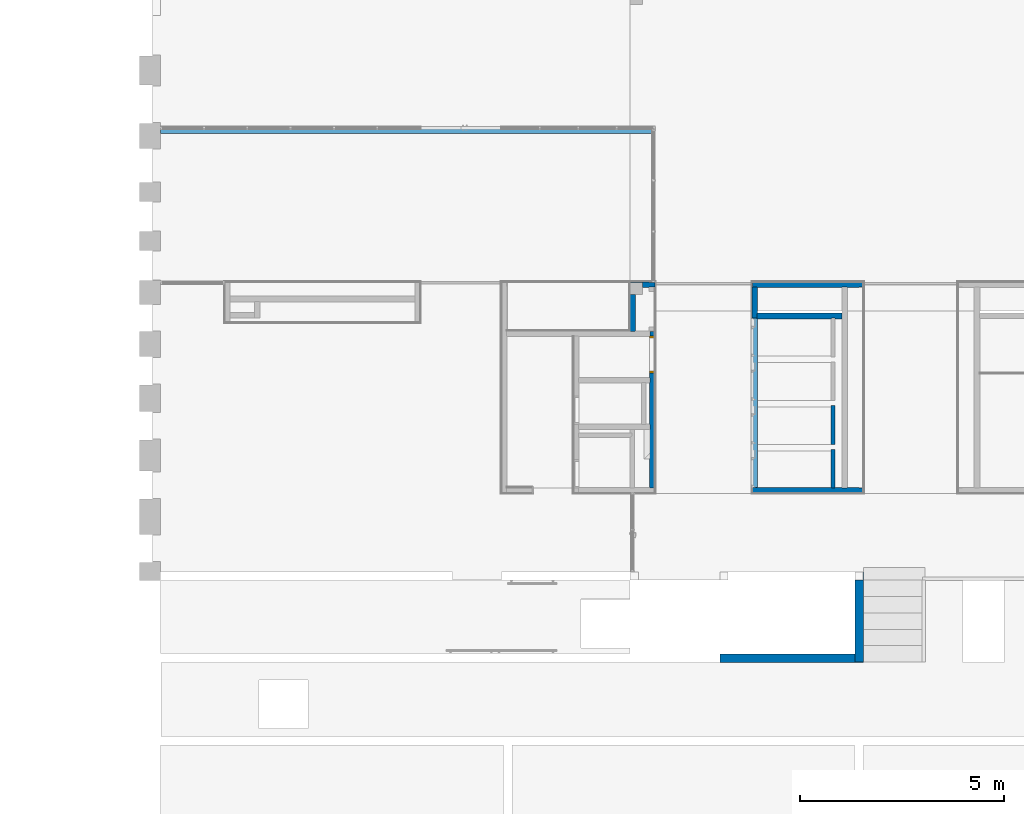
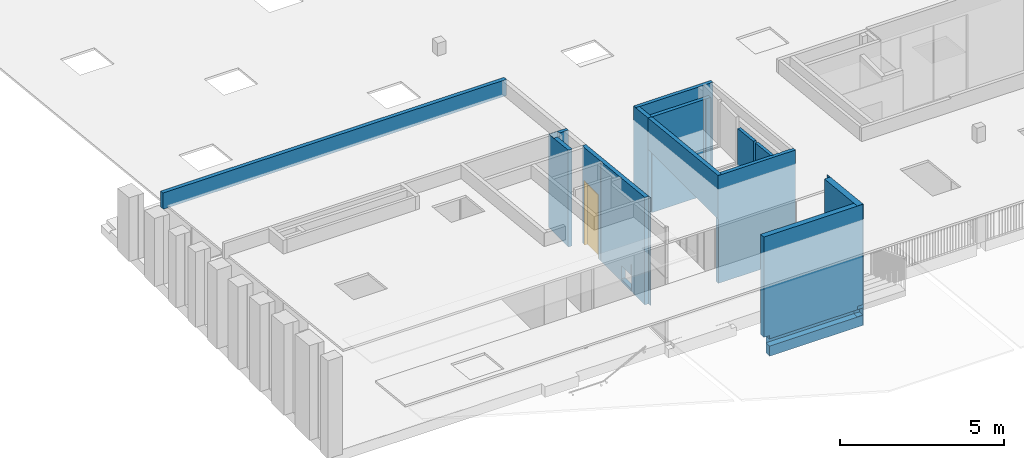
# One storey, part 27 of 43: 13 walls, 1 door, 2 openings.
"""IFC2X3 building model written with IfcOpenShell, lengths in millimetres."""

from ifc_helpers import new_model, entity, si_unit, converted_unit, derived_unit, money_unit, direction, frame, origin_with_axes, place, context, subcontext, project, spatial, faceted_brep, material, material_list, type_object, element, fill, save


model = new_model("IFC2X3")

# Units and contexts
model_context = context("Model", 3, precision=0.01, world=origin_with_axes(), true_north=direction((0.0, 1.0)))
body_context = subcontext(model_context, "Body", "Model", "MODEL_VIEW")
ifc_project = project(units=[si_unit("LENGTHUNIT", "METRE", prefix="MILLI"), si_unit("AREAUNIT", "SQUARE_METRE"), si_unit("VOLUMEUNIT", "CUBIC_METRE"), converted_unit("PLANEANGLEUNIT", "DEGREE", entity("IfcPlaneAngleMeasure", 0.0174532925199), si_unit("PLANEANGLEUNIT", "RADIAN"), dimensions=[0, 0, 0, 0, 0, 0, 0]), si_unit("SOLIDANGLEUNIT", "STERADIAN"), money_unit("EUR"), converted_unit("TIMEUNIT", "Year", entity("IfcTimeMeasure", 31556926.0), si_unit("TIMEUNIT", "SECOND"), dimensions=[0, 0, 1, 0, 0, 0, 0]), si_unit("MASSUNIT", "GRAM", prefix="KILO"), si_unit("THERMODYNAMICTEMPERATUREUNIT", "DEGREE_CELSIUS"), si_unit("LUMINOUSINTENSITYUNIT", "LUMEN"), si_unit("ENERGYUNIT", "JOULE", prefix="MEGA"), derived_unit("THERMALCONDUCTANCEUNIT", [(si_unit("POWERUNIT", "WATT"), 1), (si_unit("LENGTHUNIT", "METRE"), -1), (si_unit("THERMODYNAMICTEMPERATUREUNIT", "KELVIN"), -1)]), derived_unit("SPECIFICHEATCAPACITYUNIT", [(si_unit("ENERGYUNIT", "JOULE"), 1), (si_unit("MASSUNIT", "GRAM", prefix="KILO"), -1), (si_unit("THERMODYNAMICTEMPERATUREUNIT", "KELVIN"), -1)]), derived_unit("MASSDENSITYUNIT", [(si_unit("MASSUNIT", "GRAM", prefix="KILO"), 1), (si_unit("VOLUMEUNIT", "CUBIC_METRE"), -1)])], contexts=[model_context])

# Site, building, storey
site_placement = place(None, origin_with_axes())
site = spatial("IfcSite", under=ifc_project, at=site_placement, Name="L.Koidula tn 11b", CompositionType="ELEMENT")
building_placement = place(site_placement, origin_with_axes())
building = spatial("IfcBuilding", under=site, at=building_placement, Name="Rakvere Riigigümnaasium", CompositionType="ELEMENT")
storey_placement = place(building_placement, frame((0.0, 0.0, 6665.0), z_axis=(0.0, 0.0, 1.0), x_axis=(1.0, 0.0, 0.0)))
storey = spatial("IfcBuildingStorey", under=building, at=storey_placement, Name="3.korrus +6,66", CompositionType="ELEMENT", Elevation=6665.0)

# Walls
ifc_material_1 = material(Name="Kipsplaat")
ifc_material_2 = material(Name="mineraalvill+karkass")
ifc_material_list_1 = material_list([ifc_material_1, ifc_material_1, ifc_material_2, ifc_material_1, ifc_material_1])
wall_type_1 = type_object("IfcWallType", Name="SS-07 155", PredefinedType="NOTDEFINED")
wall_1_placement = place(storey_placement, frame((47609.9999955, 28200.4554945, 2490.0), z_axis=(0.0, 0.0, 1.0), x_axis=(-1.0, 0.0, 0.0)))
element("IfcWall", 1, at=wall_1_placement, inside=storey, type_object=wall_type_1, material=ifc_material_list_1, Name="Sisesein", context=body_context, shape_type="Brep", body=[
    faceted_brep([(12109.9999434, 140.0, 0.0), (12109.9999434, 140.0, 605.244931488), (0.0, 140.0, 605.061107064), (0.0, 140.0, 0.0), (12109.9999434, 155.0, 0.0), (12109.9999434, 155.000003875, 606.821495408), (0.0, 155.0, 606.637670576), (0.0, 155.0, 0.0)], [[[0, 1, 2, 3]], [[4, 5, 1, 0]], [[5, 6, 2, 1]], [[3, 2, 6, 7]], [[3, 7, 4, 0]], [[7, 6, 5, 4]]]),
    faceted_brep([(12109.9999434, 125.0, 0.0), (12109.9999434, 125.00000134, 603.668368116), (0.0, 125.0, 603.484543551), (0.0, 125.0, 0.0), (12109.9999434, 140.0, 0.0), (12109.9999434, 140.0, 605.244931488), (0.0, 140.0, 605.061107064), (0.0, 140.0, 0.0)], [[[0, 1, 2, 3]], [[4, 5, 1, 0]], [[5, 6, 2, 1]], [[3, 2, 6, 7]], [[3, 7, 4, 0]], [[7, 6, 5, 4]]]),
    faceted_brep([(12109.9999434, 30.0, 0.0), (12109.9999434, 30.0000000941, 593.683465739), (0.0, 30.0, 593.499641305), (0.0, 30.0, 0.0), (12109.9999434, 125.0, 0.0), (12109.9999434, 125.00000134, 603.668368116), (0.0, 125.0, 603.484543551), (0.0, 125.0, 0.0)], [[[0, 1, 2, 3]], [[4, 5, 1, 0]], [[5, 6, 2, 1]], [[3, 2, 6, 7]], [[3, 7, 4, 0]], [[7, 6, 5, 4]]]),
    faceted_brep([(12109.9999434, 15.0, 0.0), (12109.9999434, 15.0, 592.106902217), (0.0, 15.0, 591.923077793), (0.0, 15.0, 0.0), (12109.9999434, 30.0, 0.0), (12109.9999434, 30.0000000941, 593.683465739), (0.0, 30.0, 593.499641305), (0.0, 30.0, 0.0)], [[[0, 1, 2, 3]], [[4, 5, 1, 0]], [[5, 6, 2, 1]], [[3, 2, 6, 7]], [[3, 7, 4, 0]], [[7, 6, 5, 4]]]),
    faceted_brep([(12109.9999434, 0.0, 0.0), (12109.9999434, 0.0, 590.530338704), (0.0, 0.0, 590.34651428), (0.0, 0.0, 0.0), (12109.9999434, 15.0, 0.0), (12109.9999434, 15.0, 592.106902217), (0.0, 15.0, 591.923077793), (0.0, 15.0, 0.0)], [[[0, 1, 2, 3]], [[4, 5, 1, 0]], [[5, 6, 2, 1]], [[3, 2, 6, 7]], [[3, 7, 4, 0]], [[7, 6, 5, 4]]]),
])
ifc_material_3 = material(Name="Betoon element / plaat")
ifc_material_4 = material(Name="siseviimistlus-seinad")
ifc_material_list_2 = material_list([ifc_material_3, ifc_material_4])
wall_type_2 = type_object("IfcWallType", Name="SS-01-1 210", PredefinedType="NOTDEFINED")
wall_2_placement = place(storey_placement, frame((49199.9999937, 15300.4785302, 0.0), z_axis=(0.0, 0.0, 1.0), x_axis=(1.0, 0.0, 0.0)))
element("IfcWall", 2, at=wall_2_placement, inside=storey, type_object=wall_type_2, material=ifc_material_list_2, Name="Sisesein", context=body_context, shape_type="Brep", body=[
    faceted_brep([(-2.84217094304e-10, -1.1920940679e-05, 4491.46753475), (3300.0, -1.0049774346e-06, 4491.41744107), (3300.0, 0.0, 0.0), (199.999999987, 0.0, 0.0), (199.999999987, -1.1920940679e-05, 775.0), (-1.29816157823e-08, -1.1920940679e-05, 775.0), (3300.0, -200.000000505, 4512.43828785), (-2.13162820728e-10, -200.000005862, 4512.48838095), (3300.0, -200.000000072, 645.0), (3300.0, -0.746753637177, 645.0), (3300.0, -0.746753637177, 380.0), (3300.0, -200.000000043, 380.0), (3300.0, -200.0, 0.0), (199.999999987, -200.0, 0.0), (199.999999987, -0.746753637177, 380.0), (199.999999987, -0.746753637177, 645.0), (199.999999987, -200.0, 645.0), (199.999999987, -200.0, 775.0), (199.999999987, -200.0, 380.0), (-1.29816157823e-08, -200.0, 775.0)], [[[0, 1, 2, 3, 4, 5]], [[6, 1, 0, 7]], [[1, 6, 8, 9, 10, 11, 12, 2]], [[2, 12, 13, 3]], [[14, 15, 16, 17, 4, 3, 13, 18]], [[17, 19, 5, 4]], [[7, 0, 5, 19]], [[6, 7, 19, 17, 16, 8]], [[15, 9, 8, 16]], [[14, 10, 9, 15]], [[18, 11, 10, 14]], [[12, 11, 18, 13]]]),
    faceted_brep([(-1.91846538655e-10, -200.000005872, 4512.48838095), (3500.0, -200.000000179, 4512.4352519), (3500.0, -200.0, 775.0), (-1.17594822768e-08, -200.000000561, 775.0), (3500.0, -210.0, 4513.48629423), (0.0, -210.0, 4513.53942267), (3500.0, -210.0, 775.0), (0.0, -210.0, 775.0)], [[[0, 1, 2, 3]], [[4, 1, 0, 5]], [[1, 4, 6, 2]], [[7, 3, 2, 6]], [[5, 0, 3, 7]], [[4, 5, 7, 6]]]),
    faceted_brep([(199.999999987, -200.0, 380.0), (3500.0, -200.0, 380.0), (3500.0, -200.0, 0.0), (199.999999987, -200.0, 0.0), (3500.0, -210.0, 380.0), (199.999999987, -209.998331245, 380.0), (3500.0, -210.0, 0.0), (199.999999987, -209.998426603, 0.0)], [[[0, 1, 2, 3]], [[4, 1, 0, 5]], [[1, 4, 6, 2]], [[6, 7, 3, 2]], [[5, 0, 3, 7]], [[4, 5, 7, 6]]]),
])
wall_3_placement = place(storey_placement, frame((52499.9999937, 15300.4785302, 0.0), z_axis=(0.0, 0.0, 1.0), x_axis=(0.0, 1.0, 0.0)))
element("IfcWall", 3, at=wall_3_placement, inside=storey, type_object=wall_type_2, material=ifc_material_list_2, Name="Sisesein", context=body_context, shape_type="Brep", body=[
    faceted_brep([(1809.97697926, 0.0, 4301.18119669), (1809.97697926, -200.0, 4301.17816078), (1809.97697926, -200.0, 0.0), (1809.97697926, 0.0, 0.0), (-200.0, -200.0, 4512.43525188), (-200.0, 0.0, 4512.43828779), (-200.0, -200.0, 645.0), (-0.746753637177, -200.0, 645.0), (-0.746753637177, -200.0, 380.0), (-200.0, -200.0, 380.0), (-200.0, -200.0, 0.0), (-200.0, 0.0, 0.0), (-200.0, 0.0, 380.0), (-0.746753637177, 0.0, 380.0), (-0.746753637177, 0.0, 645.0), (-200.0, 0.0, 645.0)], [[[0, 1, 2, 3]], [[4, 1, 0, 5]], [[1, 4, 6, 7, 8, 9, 10, 2]], [[11, 3, 2, 10]], [[5, 0, 3, 11, 12, 13, 14, 15]], [[4, 5, 15, 6]], [[14, 7, 6, 15]], [[13, 8, 7, 14]], [[12, 9, 8, 13]], [[10, 9, 12, 11]]]),
    faceted_brep([(2009.97697926, -200.0, 4280.15731395), (2009.97697926, -210.0, 4280.15716215), (2009.97697926, -210.0, 0.0), (2009.97697926, -200.0, 0.0), (-210.0, -210.0, 4513.48614243), (-210.0, -200.0, 4513.48629423), (-210.0, -210.0, 775.0), (-200.0, -210.0, 775.0), (-200.0, -210.0, 380.0), (-210.0, -210.0, 380.0), (-210.0, -210.0, 0.0), (-210.0, -200.0, 0.0), (-210.0, -200.0, 380.0), (-200.0, -200.0, 380.0), (-200.0, -200.0, 775.0), (-210.0, -200.0, 775.0)], [[[0, 1, 2, 3]], [[4, 1, 0, 5]], [[1, 4, 6, 7, 8, 9, 10, 2]], [[11, 3, 2, 10]], [[5, 0, 3, 11, 12, 13, 14, 15]], [[4, 5, 15, 6]], [[14, 7, 6, 15]], [[8, 7, 14, 13]], [[12, 9, 8, 13]], [[10, 9, 12, 11]]]),
])

# Wall, openings, door
ifc_material_5 = material(Name="Krohv")
ifc_material_6 = material(Name="Silikaat plokk")
ifc_material_list_3 = material_list([ifc_material_5, ifc_material_6, ifc_material_5])
wall_type_3 = type_object("IfcWallType", Name="SS-05 140", PredefinedType="NOTDEFINED")
wall_4_placement = place(storey_placement, frame((47599.9999955, 19240.4397072, 0.0), z_axis=(0.0, 0.0, 1.0), x_axis=(0.0, 1.0, 0.0)))
wall_4 = element("IfcWall", 4, at=wall_4_placement, inside=storey, type_object=wall_type_3, material=ifc_material_list_3, Name="Sisesein", context=body_context, shape_type="Brep", body=[
    faceted_brep([(1560.0, 130.000001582, 595.0), (1560.0, 130.000010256, 3858.12163158), (1560.0, 119.99998154, 3858.12147979), (1560.0, 119.999997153, 595.0), (130.0, 130.0, 0.0), (130.0, 130.000010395, 4008.42068644), (960.0, 130.0, 595.0), (960.0, 130.0, 1000.0), (840.0, 130.000010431, 1000.0), (840.0, 130.0, 0.0), (130.0, 119.999981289, 4008.42053465), (130.0, 120.0, 0.0), (840.0, 120.0, 0.0), (840.0, 119.999981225, 1000.0), (960.0, 119.999981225, 1000.0), (960.0, 119.999988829, 595.0)], [[[0, 1, 2, 3]], [[4, 5, 1, 0, 6, 7, 8, 9]], [[5, 10, 2, 1]], [[3, 2, 10, 11, 12, 13, 14, 15]], [[3, 15, 6, 0]], [[11, 10, 5, 4]], [[15, 14, 7, 6]], [[13, 8, 7, 14]], [[12, 9, 8, 13]], [[12, 11, 4, 9]]]),
    faceted_brep([(2700.01583255, 130.0, 0.0), (2700.01583255, 130.00001039, 3738.30114056), (2700.01583255, 119.999981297, 3738.30098876), (2700.01583255, 120.0, 0.0), (1680.0, 130.0, 0.0), (1680.0, 130.000010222, 3845.50912348), (1680.0, 119.9999816, 3845.50897168), (1680.0, 120.0, 0.0)], [[[0, 1, 2, 3]], [[4, 5, 1, 0]], [[5, 6, 2, 1]], [[3, 2, 6, 7]], [[3, 7, 4, 0]], [[7, 6, 5, 4]]]),
    faceted_brep([(3840.01583998, 130.0, 0.0), (3840.01583998, 130.000010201, 3618.48231283), (3840.01583998, 119.999982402, 3618.48216103), (3840.01583998, 120.0, 2400.0), (3840.01583998, 120.0, 0.0), (2820.01583255, 130.0, 0.0), (2820.01583255, 130.000010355, 3725.68863246), (3830.01583521, 130.000004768, 0.0), (3830.01583521, 130.000004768, 2400.0), (2940.01583998, 130.000004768, 2400.0), (2940.01583998, 130.000004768, 0.0), (2820.01583255, 119.999981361, 3725.68848066), (2820.01583255, 120.0, 0.0), (2940.01583998, 120.000052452, 0.0), (2940.01583998, 119.999988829, 2400.0)], [[[0, 1, 2, 3, 4]], [[5, 6, 1, 0, 7, 8, 9, 10]], [[6, 11, 2, 1]], [[3, 2, 11, 12, 13, 14]], [[3, 8, 7, 4]], [[7, 0, 4]], [[12, 11, 6, 5]], [[9, 8, 3, 14]], [[10, 9, 14, 13]], [[12, 5, 10, 13]]]),
    faceted_brep([(1560.0, 130.0, 0.0), (1560.0, 130.000000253, 95.0), (1560.0, 119.999999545, 95.0), (1560.0, 120.0, 0.0), (960.0, 130.0, 0.0), (960.0, 130.0, 95.0), (960.0, 119.999998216, 95.0), (960.0, 120.0, 0.0)], [[[0, 1, 2, 3]], [[4, 5, 1, 0]], [[5, 6, 2, 1]], [[3, 2, 6, 7]], [[3, 7, 4, 0]], [[7, 6, 5, 4]]]),
    faceted_brep([(3960.01583998, 120.0, 0.0), (3960.01583998, 119.999990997, 3605.86965293), (3960.01583998, -1.32900126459e-05, 3605.86783138), (3960.01583998, 0.0, 0.0), (120.0, 120.0, 0.0), (120.0, 119.999981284, 4009.47157699), (3840.01583998, 120.0, 0.0), (3840.01583998, 120.0, 2400.0), (2940.01583998, 119.999981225, 2400.0), (2940.01583998, 120.000052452, 0.0), (1560.0, 119.999981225, 95.0), (1560.0, 119.999981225, 595.0), (960.0, 119.999981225, 595.0), (960.0, 119.999981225, 95.0), (120.0, -2.76289569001e-05, 4009.46975544), (120.0, 0.0, 0.0), (2940.01583998, -4.76837627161e-05, 0.0), (2940.01583998, -3.4504594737e-06, 2400.0), (3840.01583998, -3.4504594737e-06, 2400.0), (3840.01583998, -4.76837627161e-05, 0.0), (960.0, 0.0, 595.0), (1560.0, 0.0, 595.0), (1560.0, 0.0, 95.0), (960.0, 0.0, 95.0)], [[[0, 1, 2, 3]], [[4, 5, 1, 0, 6, 7, 8, 9], [10, 11, 12, 13]], [[5, 14, 2, 1]], [[3, 2, 14, 15, 16, 17, 18, 19], [20, 21, 22, 23]], [[0, 3, 19, 6]], [[15, 14, 5, 4]], [[7, 6, 19, 18]], [[8, 7, 18, 17]], [[9, 8, 17, 16]], [[15, 4, 9, 16]], [[21, 11, 10, 22]], [[20, 12, 11, 21]], [[23, 13, 12, 20]], [[22, 10, 13, 23]]]),
    faceted_brep([(3970.01583998, 0.0, 0.0), (3970.01583998, -2.70031819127e-05, 3604.81678904), (3970.01583998, -10.0, 3604.81663725), (3970.01583998, -10.0, 0.0), (0.0, 0.0, 0.0), (0.0, -1.84548554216e-06, 4022.08226354), (3840.01583998, -4.76837627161e-05, 0.0), (3840.01583998, -2.77161831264e-05, 2400.0), (2940.01583998, -2.77161831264e-05, 2400.0), (2940.01583998, -4.76837627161e-05, 0.0), (1560.0, 0.0, 95.0), (1560.0, 0.0, 595.0), (960.0, 0.0, 595.0), (960.0, 0.0, 95.0), (0.0, -10.0, 4022.08211175), (0.0, -10.0, 0.0), (2940.01583998, -10.0, 0.0), (2940.01583998, -10.0, 2400.0), (3840.01583998, -10.0, 2400.0), (3840.01583998, -10.0, 0.0), (960.0, -10.0, 595.0), (1560.0, -10.0, 595.0), (1560.0, -10.0, 95.0), (960.0, -10.0, 95.0)], [[[0, 1, 2, 3]], [[4, 5, 1, 0, 6, 7, 8, 9], [10, 11, 12, 13]], [[5, 14, 2, 1]], [[3, 2, 14, 15, 16, 17, 18, 19], [20, 21, 22, 23]], [[0, 3, 19, 6]], [[15, 14, 5, 4]], [[7, 6, 19, 18]], [[8, 7, 18, 17]], [[9, 8, 17, 16]], [[15, 4, 9, 16]], [[21, 11, 10, 22]], [[20, 12, 11, 21]], [[23, 13, 12, 20]], [[22, 10, 13, 23]]]),
])
opening_1_placement = place(wall_4_placement, frame((3390.01583998, 0.0, 0.0), z_axis=(0.0, 0.0, 1.0), x_axis=(1.0, 0.0, 0.0)))
opening_1 = element("IfcOpeningElement", 5, at=opening_1_placement, cuts=wall_4, Name="SU-064", context=body_context, shape_type="Brep", body=[
    faceted_brep([(450.0, -280.0, 2400.0), (450.0, -280.0, 0.0), (450.0, 140.0, 0.0), (450.0, 140.0, 2400.0), (-450.0, -280.0, 2400.0), (-450.0, -280.0, 0.0), (-450.0, 140.0, 0.0), (-450.0, 140.0, 2400.0)], [[[0, 1, 2, 3]], [[0, 4, 5, 1]], [[1, 5, 6, 2]], [[3, 2, 6, 7]], [[4, 0, 3, 7]], [[5, 4, 7, 6]]]),
])
opening_2_placement = place(wall_4_placement, frame((1260.0, 0.0, 95.0), z_axis=(0.0, 0.0, 1.0), x_axis=(1.0, 0.0, 0.0)))
element("IfcOpeningElement", 6, at=opening_2_placement, cuts=wall_4, Name="ava", context=body_context, shape_type="Brep", body=[
    faceted_brep([(-300.0, -280.0, 0.0), (-300.0, -280.0, 500.0), (-300.0, 140.0, 500.0), (-300.0, 140.0, 0.0), (300.0, -280.0, 0.0), (300.0, -280.0, 500.0), (300.0, 140.0, 500.0), (300.0, 140.0, 0.0)], [[[0, 1, 2, 3]], [[0, 4, 5, 1]], [[1, 5, 6, 2]], [[3, 2, 6, 7]], [[4, 0, 3, 7]], [[5, 4, 7, 6]]]),
])
door_style = type_object("IfcDoorStyle", Name="Door 23", ConstructionType="NOTDEFINED", OperationType="SINGLE_SWING_LEFT", ParameterTakesPrecedence=False, Sizeable=False)
door_placement = place(opening_1_placement, frame((450.0, 0.0, 0.0), z_axis=(0.0, 0.0, 1.0), x_axis=(-1.0, 0.0, 0.0)))
door = element("IfcDoor", 7, at=door_placement, inside=storey, type_object=door_style, Name="SU-064", ObjectType="DOOR", OverallHeight=2400.0, OverallWidth=900.0, context=body_context, shape_type="Brep", body=[
    faceted_brep([(855.0, -130.0, 2355.0), (855.0, -30.0, 2355.0), (855.0, -30.0, 0.0), (855.0, -130.0, 0.0), (900.0, 10.0, 2355.0), (867.0, 10.0, 2355.0), (867.0, -30.0, 2355.0), (900.0, -130.0, 2355.0), (867.0, -30.0, 0.0), (867.0, 10.0, 0.0), (900.0, 10.0, 0.0), (900.0, -130.0, 0.0)], [[[0, 1, 2, 3]], [[4, 5, 6, 1, 0, 7]], [[2, 1, 6, 8]], [[3, 2, 8, 9, 10, 11]], [[7, 0, 3, 11]], [[10, 9, 5, 4]], [[8, 6, 5, 9]], [[7, 11, 10, 4]]]),
    faceted_brep([(45.0, -130.0, 2355.0), (45.0, -30.0, 2355.0), (33.0, -30.0, 2355.0), (33.0, 10.0, 2355.0), (0.0, 10.0, 2355.0), (0.0, -130.0, 2355.0), (45.0, -130.0, 0.0), (45.0, -30.0, 0.0), (33.0, -30.0, 0.0), (33.0, 10.0, 0.0), (0.0, 10.0, 0.0), (0.0, -130.0, 0.0)], [[[0, 1, 2, 3, 4, 5]], [[6, 7, 1, 0]], [[8, 2, 1, 7]], [[9, 3, 2, 8]], [[4, 3, 9, 10]], [[11, 5, 4, 10]], [[6, 0, 5, 11]], [[10, 9, 8, 7, 6, 11]]]),
    faceted_brep([(900.0, 10.0, 2355.0), (867.0, 10.0, 2355.0), (867.0, 10.0, 2367.0), (33.0, 10.0, 2367.0), (33.0, 10.0, 2355.0), (0.0, 10.0, 2355.0), (0.0, 10.0, 2400.0), (900.0, 10.0, 2400.0), (855.0, -130.0, 2355.0), (855.0, -30.0, 2355.0), (867.0, -30.0, 2355.0), (900.0, -130.0, 2355.0), (867.0, -30.0, 2367.0), (33.0, -30.0, 2367.0), (33.0, -30.0, 2355.0), (45.0, -30.0, 2355.0), (45.0, -130.0, 2355.0), (0.0, -130.0, 2355.0), (0.0, -130.0, 2400.0), (900.0, -130.0, 2400.0)], [[[0, 1, 2, 3, 4, 5, 6, 7]], [[8, 9, 10, 1, 0, 11]], [[12, 2, 1, 10]], [[13, 3, 2, 12]], [[14, 4, 3, 13]], [[5, 4, 14, 15, 16, 17]], [[17, 18, 6, 5]], [[18, 19, 7, 6]], [[19, 11, 0, 7]], [[16, 15, 9, 8]], [[9, 15, 14, 13, 12, 10]], [[18, 17, 16, 8, 11, 19]]]),
    faceted_brep([(867.0, -30.0, 0.0), (33.0, -30.0, 0.0), (33.0, 10.0, 0.0), (867.0, 10.0, 0.0), (867.0, -30.0, 2367.0), (33.0, -30.0, 2367.0), (33.0, 10.0, 2367.0), (867.0, 10.0, 2367.0)], [[[0, 1, 2, 3]], [[4, 5, 1, 0]], [[1, 5, 6, 2]], [[7, 3, 2, 6]], [[4, 0, 3, 7]], [[5, 4, 7, 6]]]),
])
fill(opening_1, door)

# Walls
wall_5_placement = place(storey_placement, frame((52709.9999937, 24400.4555472, 0.0), z_axis=(0.0, 0.0, 1.0), x_axis=(-1.0, 0.0, 0.0)))
element("IfcWall", 8, at=wall_5_placement, inside=storey, type_object=wall_type_3, material=ifc_material_list_3, Name="Sisesein", context=body_context, shape_type="Brep", body=[
    faceted_brep([(400.0, 120.0, 0.0), (400.0, 120.000001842, 3492.28376296), (106.5, 120.000003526, 3492.27930794), (106.5, 120.0, 0.0), (400.0, 130.0, 0.0), (400.0, 130.00000737, 3493.33480589), (106.5, 130.000014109, 3493.3303514), (106.5, 130.0, 0.0)], [[[0, 1, 2, 3]], [[4, 5, 1, 0]], [[5, 6, 2, 1]], [[3, 2, 6, 7]], [[4, 0, 3, 7]], [[7, 6, 5, 4]]]),
    faceted_brep([(2600.3958317, 120.0, 0.0), (2600.3958317, 120.000000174, 3492.31716382), (520.0, 120.000001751, 3492.2855845), (520.0, 120.0, 0.0), (2600.3958317, 130.0, 0.0), (2600.3958317, 130.000000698, 3493.36820622), (520.0, 130.000007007, 3493.3366274), (520.0, 130.0, 0.0)], [[[0, 1, 2, 3]], [[4, 5, 1, 0]], [[5, 6, 2, 1]], [[3, 2, 6, 7]], [[0, 3, 7, 4]], [[7, 6, 5, 4]]]),
    faceted_brep([(2720.3958317, 0.0, 0.0), (2720.3958317, 2.4921575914e-07, 3479.70647728), (0.0, 6.41243502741e-06, 3479.66518352), (0.0, 0.0, 0.0), (2720.3958317, 120.0, 0.0), (2720.3958317, 120.000000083, 3492.31898536), (0.0, 120.000002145, 3492.27769117), (0.0, 120.0, 0.0)], [[[0, 1, 2, 3]], [[4, 5, 1, 0]], [[5, 6, 2, 1]], [[3, 2, 6, 7]], [[4, 0, 3, 7]], [[7, 6, 5, 4]]]),
    faceted_brep([(2730.3958317, -10.0, 0.0), (2730.3958317, -10.0, 3478.6555867), (0.0, -10.0, 3478.61414051), (0.0, -10.0, 0.0), (2730.3958317, 0.0, 0.0), (2730.3958317, 2.26560104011e-07, 3479.70662907), (0.0, 6.41243502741e-06, 3479.66518352), (0.0, 0.0, 0.0)], [[[0, 1, 2, 3]], [[4, 5, 1, 0]], [[5, 6, 2, 1]], [[3, 2, 6, 7]], [[4, 0, 3, 7]], [[7, 6, 5, 4]]]),
])
wall_6_placement = place(storey_placement, frame((49989.604162, 23520.4526887, 0.0), z_axis=(0.0, 0.0, 1.0), x_axis=(0.0, 1.0, 0.0)))
element("IfcWall", 9, at=wall_6_placement, inside=storey, type_object=wall_type_3, material=ifc_material_list_3, Name="Sisesein", context=body_context, shape_type="Brep", body=[
    faceted_brep([(880.002858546, 10.0, 3479.70662904), (880.002858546, 0.0, 3479.70647725), (880.002858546, 0.0, 0.0), (880.002858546, 10.0, 0.0), (0.0, 0.0, 3572.19850376), (0.0, 10.0, 3572.19865556), (0.0, 0.0, 0.0), (0.0, 10.0, 0.0)], [[[0, 1, 2, 3]], [[4, 1, 0, 5]], [[1, 4, 6, 2]], [[3, 2, 6, 7]], [[5, 0, 3, 7]], [[4, 5, 7, 6]]]),
    faceted_brep([(760.002858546, 0.0, 3492.31898535), (760.002858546, -120.0, 3492.3171638), (760.002858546, -120.0, 0.0), (760.002858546, 0.0, 0.0), (0.0, -120.0, 3572.19668222), (0.0, 0.0, 3572.19850376), (0.0, -120.0, 0.0), (0.0, 0.0, 0.0)], [[[0, 1, 2, 3]], [[4, 1, 0, 5]], [[1, 4, 6, 2]], [[3, 2, 6, 7]], [[5, 0, 3, 7]], [[4, 5, 7, 6]]]),
    faceted_brep([(750.002858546, -120.0, 3493.36820614), (750.002858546, -130.0, 3493.36805435), (750.002858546, -130.0, 0.0), (750.002858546, -120.0, 0.0), (120.0, -130.0, 3559.58402232), (120.0, -120.0, 3559.58417412), (120.0, -130.0, 0.0), (120.0, -120.0, 0.0)], [[[0, 1, 2, 3]], [[4, 1, 0, 5]], [[1, 4, 6, 2]], [[3, 2, 6, 7]], [[5, 0, 3, 7]], [[4, 5, 7, 6]]]),
])
wall_7_placement = place(storey_placement, frame((47000.0013931, 24400.4555472, 0.0), z_axis=(0.0, 0.0, 1.0), x_axis=(0.0, -1.0, 0.0)))
element("IfcWall", 10, at=wall_7_placement, inside=storey, type_object=wall_type_3, material=ifc_material_list_3, Name="Sisesein", context=body_context, shape_type="Brep", body=[
    faceted_brep([(300.0, 120.000000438, 3511.2813068), (300.0, 130.000000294, 3511.281155), (300.0, 130.0, 0.0), (300.0, 120.0, 0.0), (1190.0, 130.000000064, 3604.82392341), (1190.0, 120.000000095, 3604.82407521), (1190.0, 130.0, 0.0), (1190.0, 120.0, 0.0)], [[[0, 1, 2, 3]], [[4, 1, 0, 5]], [[1, 4, 6, 2]], [[7, 3, 2, 6]], [[5, 0, 3, 7]], [[4, 5, 7, 6]]]),
    faceted_brep([(300.0, 0.0, 3511.28312834), (300.0, 120.000000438, 3511.2813068), (300.0, 120.0, 0.0), (300.0, 0.0, 0.0), (1200.0, 120.000000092, 3605.87511755), (1200.0, -3.00701685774e-08, 3605.8769391), (1200.0, 120.0, 0.0), (1200.0, 0.0, 0.0)], [[[0, 1, 2, 3]], [[4, 1, 0, 5]], [[1, 4, 6, 2]], [[7, 3, 2, 6]], [[5, 0, 3, 7]], [[4, 5, 7, 6]]]),
    faceted_brep([(0.0, -10.0, 3479.75200989), (0.0, -1.80406800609e-07, 3479.75185809), (0.0, 0.0, 0.0), (0.0, -10.0, 0.0), (1190.0, -3.13633563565e-08, 3604.82589675), (1190.0, -10.0, 3604.82604855), (1190.0, 0.0, 0.0), (1190.0, -10.0, 0.0)], [[[0, 1, 2, 3]], [[4, 1, 0, 5]], [[1, 4, 6, 2]], [[6, 7, 3, 2]], [[5, 0, 3, 7]], [[4, 5, 7, 6]]]),
])
wall_8_placement = place(storey_placement, frame((49989.604162, 19240.4397072, 2400.0), z_axis=(0.0, 0.0, 1.0), x_axis=(0.0, 1.0, 0.0)))
element("IfcWall", 11, at=wall_8_placement, inside=storey, type_object=wall_type_3, material=ifc_material_list_3, Name="Sisesein", context=body_context, shape_type="Brep", body=[
    faceted_brep([(4280.01298143, 10.0, 0.0), (4280.01298143, 10.0, 1172.19865556), (4280.01298143, 0.0, 1172.19850376), (4280.01298143, 0.0, 0.0), (0.0, 10.0, 0.0), (0.0, 10.0, 1622.04614221), (0.0, 0.0, 1622.04599041), (0.0, 0.0, 0.0)], [[[0, 1, 2, 3]], [[4, 5, 1, 0]], [[5, 6, 2, 1]], [[3, 2, 6, 7]], [[7, 4, 0, 3]], [[7, 6, 5, 4]]]),
    faceted_brep([(4280.01298143, 0.0, 0.0), (4280.01298143, 0.0, 1172.19850376), (4280.01298143, -120.0, 1172.19668222), (4280.01298143, -120.0, 0.0), (0.0, 0.0, 0.0), (0.0, 0.0, 1622.04599041), (0.0, -120.0, 1622.04416887), (0.0, -120.0, 0.0)], [[[0, 1, 2, 3]], [[4, 5, 1, 0]], [[5, 6, 2, 1]], [[3, 2, 6, 7]], [[7, 4, 0, 3]], [[7, 6, 5, 4]]]),
    faceted_brep([(4280.01298143, -120.0, 0.0), (4280.01298143, -120.0, 1172.19668222), (4280.01298143, -130.0, 1172.19653042), (4280.01298143, -130.0, 0.0), (135.0, -120.0, 0.0), (135.0, -120.0, 1607.85509725), (135.0, -130.0, 1607.85494546), (135.0, -130.0, 0.0)], [[[0, 1, 2, 3]], [[4, 5, 1, 0]], [[5, 6, 2, 1]], [[3, 2, 6, 7]], [[0, 3, 7, 4]], [[7, 6, 5, 4]]]),
])
wall_9_placement = place(storey_placement, frame((47609.9999955, 24400.4555472, 0.0), z_axis=(0.0, 0.0, 1.0), x_axis=(-1.0, 0.0, 0.0)))
element("IfcWall", 12, at=wall_9_placement, inside=storey, type_object=wall_type_3, material=ifc_material_list_3, Name="Sisesein", context=body_context, shape_type="Brep", body=[
    faceted_brep([(309.99860243, 120.0, 0.0), (309.99860243, 120.0, 3492.35981233), (155.0, 120.0, 3492.35745952), (155.0, 120.0, 0.0), (309.99860243, 130.0, 0.0), (309.99860243, 130.0, 3493.41085467), (155.0, 130.0, 3493.40850186), (155.0, 130.0, 0.0)], [[[0, 1, 2, 3]], [[4, 5, 1, 0]], [[5, 6, 2, 1]], [[3, 2, 6, 7]], [[3, 7, 4, 0]], [[7, 6, 5, 4]]]),
    faceted_brep([(309.99860243, 0.0, 0.0), (309.99860243, 0.0, 3479.74730423), (0.0, 0.0, 3479.74259858), (0.0, 0.0, 0.0), (309.99860243, 120.0, 0.0), (309.99860243, 120.0, 3492.35981233), (0.0, 120.0, 3492.35510668), (0.0, 120.0, 0.0)], [[[0, 1, 2, 3]], [[4, 5, 1, 0]], [[5, 6, 2, 1]], [[3, 2, 6, 7]], [[0, 3, 7, 4]], [[7, 6, 5, 4]]]),
    faceted_brep([(619.99860243, -10.0, 0.0), (619.99860243, -10.0, 3478.70096755), (155.0, -10.0, 3478.69390907), (155.0, -10.0, 0.0), (619.99860243, 0.0, 0.0), (619.99860243, 0.0, 3479.75200989), (155.0, 0.0, 3479.74495142), (155.0, 0.0, 0.0)], [[[0, 1, 2, 3]], [[4, 5, 1, 0]], [[5, 6, 2, 1]], [[3, 2, 6, 7]], [[0, 3, 7, 4]], [[7, 6, 5, 4]]]),
])
ifc_material_7 = material(Name="Keraamiline plaat")
ifc_material_list_4 = material_list([ifc_material_7, ifc_material_1, ifc_material_1, ifc_material_2])
wall_type_4 = type_object("IfcWallType", Name="SS-09 107", PredefinedType="NOTDEFINED")
wall_10_placement = place(storey_placement, frame((51909.9999937, 19360.4397072, 0.0), z_axis=(0.0, 0.0, 1.0), x_axis=(0.0, 1.0, 0.0)))
element("IfcWall", 13, at=wall_10_placement, inside=storey, type_object=wall_type_4, material=ifc_material_list_4, Name="Sisesein", context=body_context, shape_type="Brep", body=[
    faceted_brep([(949.999258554, 0.0, 0.0), (949.999258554, 0.0, 3909.55538702), (949.999258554, -15.0, 3909.55515933), (949.999258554, -15.0, 0.0), (15.0, 0.0, 0.0), (15.0, 0.0, 4007.82776804), (15.0, -15.0, 4007.82754035), (15.0, -15.0, 0.0)], [[[0, 1, 2, 3]], [[4, 5, 1, 0]], [[5, 6, 2, 1]], [[3, 2, 6, 7]], [[7, 4, 0, 3]], [[7, 6, 5, 4]]]),
    faceted_brep([(949.999258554, -15.0, 0.0), (949.999258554, -15.0, 3909.55515933), (949.999258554, -28.0, 3909.554962), (949.999258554, -28.0, 0.0), (0.0, -15.0, 0.0), (0.0, -15.0, 4009.40410386), (0.0, -28.0, 4009.40390653), (0.0, -28.0, 0.0)], [[[0, 1, 2, 3]], [[4, 5, 1, 0]], [[5, 6, 2, 1]], [[3, 2, 6, 7]], [[7, 4, 0, 3]], [[7, 6, 5, 4]]]),
    faceted_brep([(949.999258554, -28.0, 0.0), (949.999258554, -28.0, 3909.554962), (949.999258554, -40.5, 3909.55477225), (949.999258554, -40.5, 0.0), (0.0, -28.0, 0.0), (0.0, -28.0, 4009.40390653), (0.0, -40.5, 4009.40371678), (0.0, -40.5, 0.0)], [[[0, 1, 2, 3]], [[4, 5, 1, 0]], [[5, 6, 2, 1]], [[3, 2, 6, 7]], [[7, 4, 0, 3]], [[7, 6, 5, 4]]]),
    faceted_brep([(949.999258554, -40.5, 0.0), (949.999258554, -40.5, 3909.55477225), (949.999258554, -106.5, 3909.5537704), (949.999258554, -106.5, 0.0), (0.0, -40.5, 0.0), (0.0, -40.5, 4009.40371678), (0.0, -106.5, 4009.40271493), (0.0, -106.5, 0.0)], [[[0, 1, 2, 3]], [[4, 5, 1, 0]], [[5, 6, 2, 1]], [[3, 2, 6, 7]], [[7, 4, 0, 3]], [[7, 6, 5, 4]]]),
])
wall_11_placement = place(storey_placement, frame((51909.9999937, 20430.4429526, 0.0), z_axis=(0.0, 0.0, 1.0), x_axis=(0.0, 1.0, 0.0)))
element("IfcWall", 14, at=wall_11_placement, inside=storey, type_object=wall_type_4, material=ifc_material_list_4, Name="Sisesein", context=body_context, shape_type="Brep", body=[
    faceted_brep([(950.003245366, 0.0, 3797.09309633), (950.003245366, -15.0, 3797.09286864), (950.003245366, -15.0, 0.0), (950.003245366, 0.0, 0.0), (0.0, -15.0, 3896.9422322), (0.0, 0.0, 3896.94245989), (0.0, -15.0, 0.0), (0.0, 0.0, 0.0)], [[[0, 1, 2, 3]], [[4, 1, 0, 5]], [[1, 4, 6, 2]], [[7, 3, 2, 6]], [[5, 0, 3, 7]], [[4, 5, 7, 6]]]),
    faceted_brep([(950.003245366, -15.0, 3797.09286864), (950.003245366, -28.0, 3797.0926713), (950.003245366, -28.0, 0.0), (950.003245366, -15.0, 0.0), (0.0, -28.0, 3896.94203487), (0.0, -15.0, 3896.9422322), (0.0, -28.0, 0.0), (0.0, -15.0, 0.0)], [[[0, 1, 2, 3]], [[4, 1, 0, 5]], [[1, 4, 6, 2]], [[7, 3, 2, 6]], [[5, 0, 3, 7]], [[4, 5, 7, 6]]]),
    faceted_brep([(950.003245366, -28.0, 3797.0926713), (950.003245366, -40.5, 3797.09248156), (950.003245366, -40.5, 0.0), (950.003245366, -28.0, 0.0), (0.0, -40.5, 3896.94184512), (0.0, -28.0, 3896.94203487), (0.0, -40.5, 0.0), (0.0, -28.0, 0.0)], [[[0, 1, 2, 3]], [[4, 1, 0, 5]], [[1, 4, 6, 2]], [[7, 3, 2, 6]], [[5, 0, 3, 7]], [[4, 5, 7, 6]]]),
    faceted_brep([(950.003245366, -40.5, 3797.09248156), (950.003245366, -106.5, 3797.09147971), (950.003245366, -106.5, 0.0), (950.003245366, -40.5, 0.0), (0.0, -106.5, 3896.94084327), (0.0, -40.5, 3896.94184512), (0.0, -106.5, 0.0), (0.0, -40.5, 0.0)], [[[0, 1, 2, 3]], [[4, 1, 0, 5]], [[1, 4, 6, 2]], [[7, 3, 2, 6]], [[5, 0, 3, 7]], [[4, 5, 7, 6]]]),
])
ifc_material_list_5 = material_list([ifc_material_5, ifc_material_6, ifc_material_7])
wall_type_5 = type_object("IfcWallType", Name="SS-05-1-1 145", PredefinedType="NOTDEFINED")
wall_12_placement = place(storey_placement, frame((52709.9999937, 19360.4397072, 0.0), z_axis=(0.0, 0.0, 1.0), x_axis=(-1.0, 0.0, 0.0)))
element("IfcWall", 15, at=wall_12_placement, inside=storey, type_object=wall_type_5, material=ifc_material_list_5, Name="Sisesein", context=body_context, shape_type="Brep", body=[
    faceted_brep([(2730.39581263, 120.0, 2400.0), (2730.39581263, 120.0, 4022.04614221), (0.0, 120.000006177, 4022.00469666), (0.0, 120.0, 0.0), (2720.3958317, 120.0, 0.0), (2720.3958317, 120.0, 2400.0), (2730.39581263, 130.0, 2400.0), (2730.39581263, 130.0, 4023.09718455), (0.0, 129.999983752, 4023.05573665), (0.0, 130.0, 0.0), (2720.3958317, 130.0, 0.0), (2720.3958317, 130.0, 2400.0)], [[[0, 1, 2, 3, 4, 5]], [[6, 7, 1, 0]], [[7, 8, 2, 1]], [[3, 2, 8, 9]], [[4, 3, 9, 10]], [[4, 10, 11, 5]], [[6, 0, 5, 11]], [[9, 8, 7, 6, 11, 10]]]),
    faceted_brep([(2600.3958317, 0.0, 2400.0), (2600.3958317, 3.11111136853e-07, 4009.4316608), (0.0, 1.10829532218e-05, 4009.39218908), (0.0, 0.0, 0.0), (2720.3958317, 0.0, 0.0), (2720.3958317, 0.0, 2400.0), (2600.3958317, 120.0, 2400.0), (2600.3958317, 120.0, 4022.04416887), (0.0, 120.000006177, 4022.00469666), (0.0, 120.0, 0.0), (2720.3958317, 120.0, 0.0), (2720.3958317, 120.0, 2400.0)], [[[0, 1, 2, 3, 4, 5]], [[6, 7, 1, 0]], [[7, 8, 2, 1]], [[3, 2, 8, 9]], [[4, 3, 9, 10]], [[4, 10, 11, 5]], [[11, 6, 0, 5]], [[9, 8, 7, 6, 11, 10]]]),
    faceted_brep([(2600.3958317, -15.0, 2400.0), (2600.3958317, -15.0, 4007.85509725), (785.0, -15.0, 4007.82754035), (785.0, -15.0, 0.0), (2720.3958317, -15.0, 0.0), (2720.3958317, -15.0, 2400.0), (2600.3958317, 0.0, 2400.0), (2600.3958317, 3.11111136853e-07, 4009.4316608), (785.0, 0.0, 4009.40410386), (785.0, 0.0, 0.0), (2720.3958317, 0.0, 0.0), (2720.3958317, 0.0, 2400.0)], [[[0, 1, 2, 3, 4, 5]], [[6, 7, 1, 0]], [[7, 8, 2, 1]], [[3, 2, 8, 9]], [[10, 4, 3, 9]], [[4, 10, 11, 5]], [[11, 6, 0, 5]], [[9, 8, 7, 6, 11, 10]]]),
    faceted_brep([(400.0, -15.0, 0.0), (400.0, -15.0, 4007.82169622), (106.5, -15.0, 4007.81724102), (106.5, -15.0, 0.0), (400.0, 0.0, 0.0), (400.0, 9.45932754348e-06, 4009.39826073), (106.5, 0.0, 4009.39380453), (106.5, 0.0, 0.0)], [[[0, 1, 2, 3]], [[4, 5, 1, 0]], [[5, 6, 2, 1]], [[3, 2, 6, 7]], [[4, 0, 3, 7]], [[7, 6, 5, 4]]]),
    faceted_brep([(693.5, -15.0, 0.0), (693.5, -15.0, 4007.82615142), (520.0, -15.0, 4007.82351777), (520.0, -15.0, 0.0), (693.5, 0.0, 0.0), (693.5, 0.0, 4009.40271493), (520.0, 8.97223628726e-06, 4009.40008222), (520.0, 0.0, 0.0)], [[[0, 1, 2, 3]], [[4, 5, 1, 0]], [[5, 6, 2, 1]], [[3, 2, 6, 7]], [[3, 7, 4, 0]], [[7, 6, 5, 4]]]),
])
ifc_material_list_6 = material_list([ifc_material_7, ifc_material_6, ifc_material_5])
wall_13_placement = place(storey_placement, frame((52309.9999937, 23640.4526887, 0.0), z_axis=(0.0, 0.0, 1.0), x_axis=(-1.0, 0.0, 0.0)))
element("IfcWall", 16, at=wall_13_placement, inside=storey, type_object=wall_type_5, material=ifc_material_list_6, Name="Sisesein", context=body_context, shape_type="Brep", body=[
    faceted_brep([(2200.3958317, 120.0, 0.0), (2200.3958317, 120.0, 3572.19668222), (385.0, 120.0, 3572.16912531), (385.0, 120.0, 0.0), (2200.3958317, 135.0, 0.0), (2200.3958317, 135.0, 3573.77324573), (385.0, 135.0, 3573.74568883), (385.0, 135.0, 0.0)], [[[0, 1, 2, 3]], [[4, 5, 1, 0]], [[5, 6, 2, 1]], [[3, 2, 6, 7]], [[4, 0, 3, 7]], [[7, 6, 5, 4]]]),
    faceted_brep([(293.5, 120.0, 0.0), (293.5, 120.0, 3572.16773638), (120.0, 120.0, 3572.16510273), (120.0, 120.0, 0.0), (293.5, 135.0, 0.0), (293.5, 135.0, 3573.7442999), (120.0, 135.0, 3573.74166624), (120.0, 135.0, 0.0)], [[[0, 1, 2, 3]], [[4, 5, 1, 0]], [[5, 6, 2, 1]], [[3, 2, 6, 7]], [[3, 7, 4, 0]], [[7, 6, 5, 4]]]),
    faceted_brep([(2200.3958317, 0.0, 0.0), (2200.3958317, 0.0, 3559.58417412), (120.0, 0.0, 3559.55259463), (120.0, 0.0, 0.0), (2200.3958317, 120.0, 0.0), (2200.3958317, 120.0, 3572.19668222), (120.0, 120.0, 3572.16510273), (120.0, 120.0, 0.0)], [[[0, 1, 2, 3]], [[4, 5, 1, 0]], [[5, 6, 2, 1]], [[3, 2, 6, 7]], [[7, 4, 0, 3]], [[7, 6, 5, 4]]]),
    faceted_brep([(2190.3958317, -10.0, 0.0), (2190.3958317, -10.0, 3558.53297998), (130.0, -10.0, 3558.50170408), (130.0, -10.0, 0.0), (2190.3958317, 0.0, 0.0), (2190.3958317, 0.0, 3559.58402232), (130.0, 0.0, 3559.55274643), (130.0, 0.0, 0.0)], [[[0, 1, 2, 3]], [[4, 5, 1, 0]], [[5, 6, 2, 1]], [[3, 2, 6, 7]], [[7, 4, 0, 3]], [[7, 6, 5, 4]]]),
])

save(model, "model.ifc")
